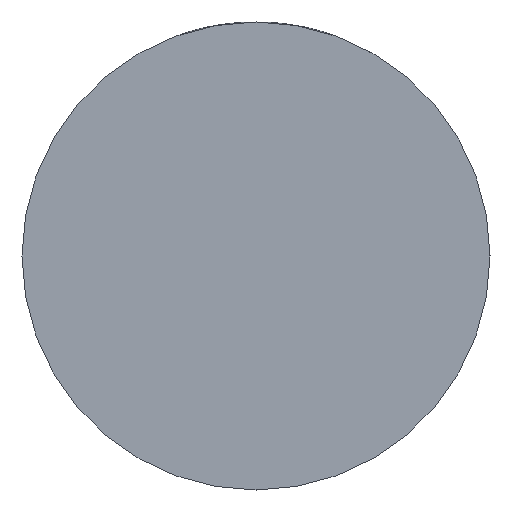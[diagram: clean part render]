
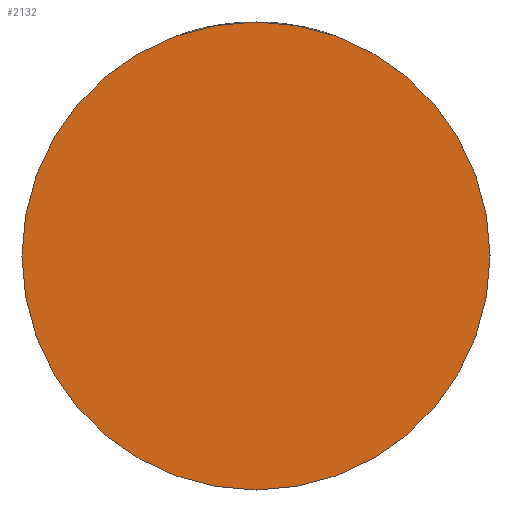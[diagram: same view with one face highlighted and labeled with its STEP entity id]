
A CAD part, front view. The second image highlights one B-rep face of the part: STEP entity #2132.
In plain terms, the highlighted planar face has unit normal (0, -1, 0).
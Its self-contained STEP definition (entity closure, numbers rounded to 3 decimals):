
#222 = EDGE_LOOP ( 'NONE', ( #1617, #3483 ) ) ;
#872 = CIRCLE ( 'NONE', #5120, 34. ) ;
#907 = DIRECTION ( 'NONE',  ( -1., 0., 0. ) ) ;
#1366 = CARTESIAN_POINT ( 'NONE',  ( 0., -21., 0. ) ) ;
#1501 = EDGE_CURVE ( 'NONE', #2086, #3881, #872, .T. ) ;
#1555 = PLANE ( 'NONE',  #2615 ) ;
#1617 = ORIENTED_EDGE ( 'NONE', *, *, #2770, .F. ) ;
#1756 = DIRECTION ( 'NONE',  ( -1., 0., 0. ) ) ;
#1837 = DIRECTION ( 'NONE',  ( 0., 1., 0. ) ) ;
#1927 = AXIS2_PLACEMENT_3D ( 'NONE', #1366, #2511, #907 ) ;
#2086 = VERTEX_POINT ( 'NONE', #5303 ) ;
#2132 = ADVANCED_FACE ( 'NONE', ( #2860 ), #1555, .T. ) ;
#2454 = DIRECTION ( 'NONE',  ( 1., 0., 0. ) ) ;
#2511 = DIRECTION ( 'NONE',  ( 0., 1., 0. ) ) ;
#2615 = AXIS2_PLACEMENT_3D ( 'NONE', #4527, #3628, #2454 ) ;
#2624 = CARTESIAN_POINT ( 'NONE',  ( 0., -21., 0. ) ) ;
#2770 = EDGE_CURVE ( 'NONE', #3881, #2086, #4533, .T. ) ;
#2860 = FACE_OUTER_BOUND ( 'NONE', #222, .T. ) ;
#3483 = ORIENTED_EDGE ( 'NONE', *, *, #1501, .F. ) ;
#3628 = DIRECTION ( 'NONE',  ( 0., -1., 0. ) ) ;
#3881 = VERTEX_POINT ( 'NONE', #5108 ) ;
#4527 = CARTESIAN_POINT ( 'NONE',  ( 0., -21., 0. ) ) ;
#4533 = CIRCLE ( 'NONE', #1927, 34. ) ;
#5108 = CARTESIAN_POINT ( 'NONE',  ( -34., -21., 0. ) ) ;
#5120 = AXIS2_PLACEMENT_3D ( 'NONE', #2624, #1837, #1756 ) ;
#5303 = CARTESIAN_POINT ( 'NONE',  ( 34., -21., 0. ) ) ;
